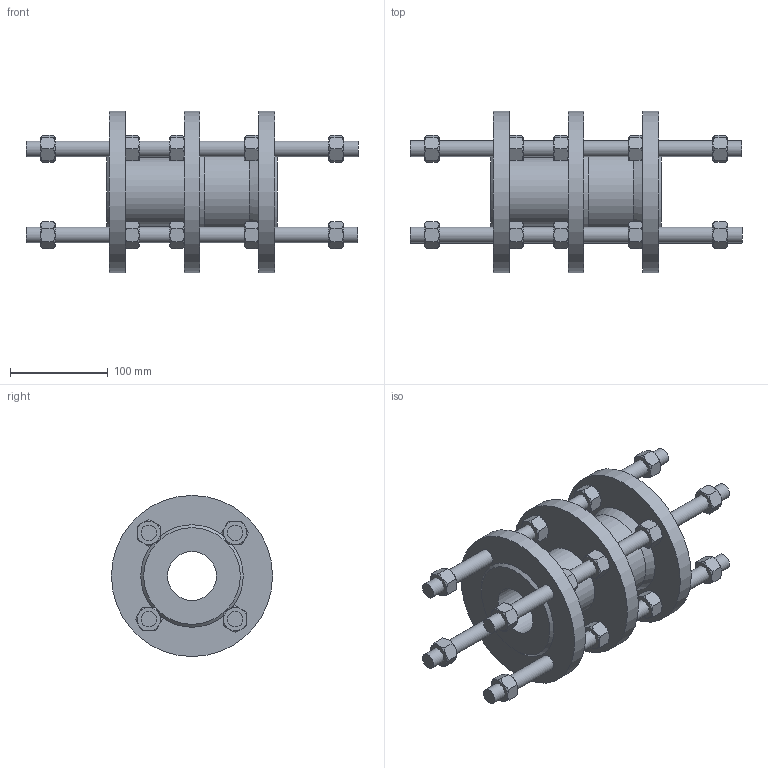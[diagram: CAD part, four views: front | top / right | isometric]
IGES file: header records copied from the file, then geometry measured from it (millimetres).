
Start section: SolidWorks IGES file using analytic representation for surfaces
Global section: file name: X:\AR\CV\873\873-0050-00-741000\873005000741000.IGS; native system: SolidWorks 2020; preprocessor: SolidWorks 2020; author: m.lucatello; date: 211105.085734; units: millimetre
Bounding box: 340 x 165 x 165 mm (x, y, z)
Surface area: 293048 mm2 (no closed solid volume)
Topology: 0 solids, 0 shells, 463 faces, 1922 edges, 1876 vertices
Faces by surface type: revolution 286, bspline 177
